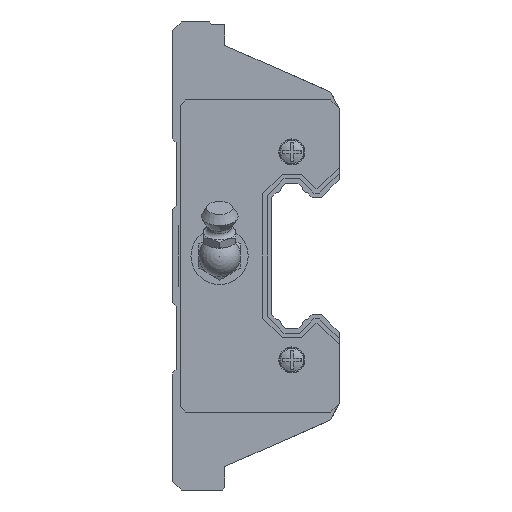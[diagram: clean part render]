
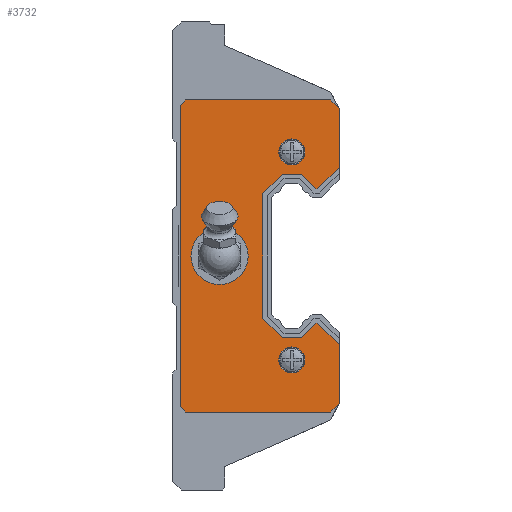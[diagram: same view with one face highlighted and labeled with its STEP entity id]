
A CAD part, left-side view. The second image highlights one B-rep face of the part: STEP entity #3732.
In plain terms, the highlighted planar face has unit normal (-1, 0, 0) as drawn and (1, 0, 0) by its records, which use the part's own axes.
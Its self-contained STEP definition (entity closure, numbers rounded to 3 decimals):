
#3714 = VERTEX_POINT('',#3715);
#3715 = CARTESIAN_POINT('',(3.,19.1,22.5));
#3720 = EDGE_CURVE('',#3714,#3714,#3721,.T.);
#3721 = CIRCLE('',#3722,2.5);
#3722 = AXIS2_PLACEMENT_3D('',#3723,#3724,#3725);
#3723 = CARTESIAN_POINT('',(3.,19.1,20.));
#3724 = DIRECTION('',(-1.,0.,0.));
#3725 = DIRECTION('',(0.,0.,1.));
#3732 = ADVANCED_FACE('',(#3733,#3895,#3898,#3909),#3920,.T.);
#3733 = FACE_BOUND('',#3734,.T.);
#3734 = EDGE_LOOP('',(#3735,#3745,#3753,#3761,#3769,#3777,#3785,#3793,
    #3801,#3809,#3817,#3825,#3833,#3841,#3849,#3857,#3865,#3873,#3881,
    #3889));
#3735 = ORIENTED_EDGE('',*,*,#3736,.F.);
#3736 = EDGE_CURVE('',#3737,#3739,#3741,.T.);
#3737 = VERTEX_POINT('',#3738);
#3738 = CARTESIAN_POINT('',(3.,14.126,12.95));
#3739 = VERTEX_POINT('',#3740);
#3740 = CARTESIAN_POINT('',(3.,10.,17.076));
#3741 = LINE('',#3742,#3743);
#3742 = CARTESIAN_POINT('',(3.,14.126,12.95));
#3743 = VECTOR('',#3744,1.);
#3744 = DIRECTION('',(0.,-0.707,0.707));
#3745 = ORIENTED_EDGE('',*,*,#3746,.F.);
#3746 = EDGE_CURVE('',#3747,#3737,#3749,.T.);
#3747 = VERTEX_POINT('',#3748);
#3748 = CARTESIAN_POINT('',(3.,14.504,12.95));
#3749 = LINE('',#3750,#3751);
#3750 = CARTESIAN_POINT('',(3.,14.504,12.95));
#3751 = VECTOR('',#3752,1.);
#3752 = DIRECTION('',(0.,-1.,0.));
#3753 = ORIENTED_EDGE('',*,*,#3754,.F.);
#3754 = EDGE_CURVE('',#3755,#3747,#3757,.T.);
#3755 = VERTEX_POINT('',#3756);
#3756 = CARTESIAN_POINT('',(3.,17.234,15.68));
#3757 = LINE('',#3758,#3759);
#3758 = CARTESIAN_POINT('',(3.,17.234,15.68));
#3759 = VECTOR('',#3760,1.);
#3760 = DIRECTION('',(0.,-0.707,-0.707));
#3761 = ORIENTED_EDGE('',*,*,#3762,.F.);
#3762 = EDGE_CURVE('',#3763,#3755,#3765,.T.);
#3763 = VERTEX_POINT('',#3764);
#3764 = CARTESIAN_POINT('',(3.,20.966,15.68));
#3765 = LINE('',#3766,#3767);
#3766 = CARTESIAN_POINT('',(3.,20.966,15.68));
#3767 = VECTOR('',#3768,1.);
#3768 = DIRECTION('',(0.,-1.,0.));
#3769 = ORIENTED_EDGE('',*,*,#3770,.F.);
#3770 = EDGE_CURVE('',#3771,#3763,#3773,.T.);
#3771 = VERTEX_POINT('',#3772);
#3772 = CARTESIAN_POINT('',(3.,24.68,11.966));
#3773 = LINE('',#3774,#3775);
#3774 = CARTESIAN_POINT('',(3.,24.68,11.966));
#3775 = VECTOR('',#3776,1.);
#3776 = DIRECTION('',(0.,-0.707,0.707));
#3777 = ORIENTED_EDGE('',*,*,#3778,.F.);
#3778 = EDGE_CURVE('',#3779,#3771,#3781,.T.);
#3779 = VERTEX_POINT('',#3780);
#3780 = CARTESIAN_POINT('',(3.,24.68,-11.966));
#3781 = LINE('',#3782,#3783);
#3782 = CARTESIAN_POINT('',(3.,24.68,-11.966));
#3783 = VECTOR('',#3784,1.);
#3784 = DIRECTION('',(0.,0.,1.));
#3785 = ORIENTED_EDGE('',*,*,#3786,.F.);
#3786 = EDGE_CURVE('',#3787,#3779,#3789,.T.);
#3787 = VERTEX_POINT('',#3788);
#3788 = CARTESIAN_POINT('',(3.,20.966,-15.68));
#3789 = LINE('',#3790,#3791);
#3790 = CARTESIAN_POINT('',(3.,20.966,-15.68));
#3791 = VECTOR('',#3792,1.);
#3792 = DIRECTION('',(0.,0.707,0.707));
#3793 = ORIENTED_EDGE('',*,*,#3794,.F.);
#3794 = EDGE_CURVE('',#3795,#3787,#3797,.T.);
#3795 = VERTEX_POINT('',#3796);
#3796 = CARTESIAN_POINT('',(3.,17.234,-15.68));
#3797 = LINE('',#3798,#3799);
#3798 = CARTESIAN_POINT('',(3.,17.234,-15.68));
#3799 = VECTOR('',#3800,1.);
#3800 = DIRECTION('',(0.,1.,0.));
#3801 = ORIENTED_EDGE('',*,*,#3802,.F.);
#3802 = EDGE_CURVE('',#3803,#3795,#3805,.T.);
#3803 = VERTEX_POINT('',#3804);
#3804 = CARTESIAN_POINT('',(3.,14.504,-12.95));
#3805 = LINE('',#3806,#3807);
#3806 = CARTESIAN_POINT('',(3.,14.504,-12.95));
#3807 = VECTOR('',#3808,1.);
#3808 = DIRECTION('',(0.,0.707,-0.707));
#3809 = ORIENTED_EDGE('',*,*,#3810,.F.);
#3810 = EDGE_CURVE('',#3811,#3803,#3813,.T.);
#3811 = VERTEX_POINT('',#3812);
#3812 = CARTESIAN_POINT('',(3.,14.126,-12.95));
#3813 = LINE('',#3814,#3815);
#3814 = CARTESIAN_POINT('',(3.,14.126,-12.95));
#3815 = VECTOR('',#3816,1.);
#3816 = DIRECTION('',(0.,1.,0.));
#3817 = ORIENTED_EDGE('',*,*,#3818,.F.);
#3818 = EDGE_CURVE('',#3819,#3811,#3821,.T.);
#3819 = VERTEX_POINT('',#3820);
#3820 = CARTESIAN_POINT('',(3.,10.,-17.076));
#3821 = LINE('',#3822,#3823);
#3822 = CARTESIAN_POINT('',(3.,10.,-17.076));
#3823 = VECTOR('',#3824,1.);
#3824 = DIRECTION('',(0.,0.707,0.707));
#3825 = ORIENTED_EDGE('',*,*,#3826,.T.);
#3826 = EDGE_CURVE('',#3819,#3827,#3829,.T.);
#3827 = VERTEX_POINT('',#3828);
#3828 = CARTESIAN_POINT('',(3.,10.,-28.4));
#3829 = LINE('',#3830,#3831);
#3830 = CARTESIAN_POINT('',(3.,10.,28.4));
#3831 = VECTOR('',#3832,1.);
#3832 = DIRECTION('',(0.,0.,-1.));
#3833 = ORIENTED_EDGE('',*,*,#3834,.T.);
#3834 = EDGE_CURVE('',#3827,#3835,#3837,.T.);
#3835 = VERTEX_POINT('',#3836);
#3836 = CARTESIAN_POINT('',(3.,11.6,-30.));
#3837 = LINE('',#3838,#3839);
#3838 = CARTESIAN_POINT('',(3.,10.,-28.4));
#3839 = VECTOR('',#3840,1.);
#3840 = DIRECTION('',(0.,0.707,-0.707));
#3841 = ORIENTED_EDGE('',*,*,#3842,.T.);
#3842 = EDGE_CURVE('',#3835,#3843,#3845,.T.);
#3843 = VERTEX_POINT('',#3844);
#3844 = CARTESIAN_POINT('',(3.,39.6,-30.));
#3845 = LINE('',#3846,#3847);
#3846 = CARTESIAN_POINT('',(3.,11.6,-30.));
#3847 = VECTOR('',#3848,1.);
#3848 = DIRECTION('',(0.,1.,0.));
#3849 = ORIENTED_EDGE('',*,*,#3850,.T.);
#3850 = EDGE_CURVE('',#3843,#3851,#3853,.T.);
#3851 = VERTEX_POINT('',#3852);
#3852 = CARTESIAN_POINT('',(3.,40.6,-29.));
#3853 = LINE('',#3854,#3855);
#3854 = CARTESIAN_POINT('',(3.,39.6,-30.));
#3855 = VECTOR('',#3856,1.);
#3856 = DIRECTION('',(0.,0.707,0.707));
#3857 = ORIENTED_EDGE('',*,*,#3858,.T.);
#3858 = EDGE_CURVE('',#3851,#3859,#3861,.T.);
#3859 = VERTEX_POINT('',#3860);
#3860 = CARTESIAN_POINT('',(3.,40.6,29.));
#3861 = LINE('',#3862,#3863);
#3862 = CARTESIAN_POINT('',(3.,40.6,-29.));
#3863 = VECTOR('',#3864,1.);
#3864 = DIRECTION('',(0.,0.,1.));
#3865 = ORIENTED_EDGE('',*,*,#3866,.T.);
#3866 = EDGE_CURVE('',#3859,#3867,#3869,.T.);
#3867 = VERTEX_POINT('',#3868);
#3868 = CARTESIAN_POINT('',(3.,39.6,30.));
#3869 = LINE('',#3870,#3871);
#3870 = CARTESIAN_POINT('',(3.,40.6,29.));
#3871 = VECTOR('',#3872,1.);
#3872 = DIRECTION('',(0.,-0.707,0.707));
#3873 = ORIENTED_EDGE('',*,*,#3874,.T.);
#3874 = EDGE_CURVE('',#3867,#3875,#3877,.T.);
#3875 = VERTEX_POINT('',#3876);
#3876 = CARTESIAN_POINT('',(3.,11.6,30.));
#3877 = LINE('',#3878,#3879);
#3878 = CARTESIAN_POINT('',(3.,39.6,30.));
#3879 = VECTOR('',#3880,1.);
#3880 = DIRECTION('',(0.,-1.,0.));
#3881 = ORIENTED_EDGE('',*,*,#3882,.T.);
#3882 = EDGE_CURVE('',#3875,#3883,#3885,.T.);
#3883 = VERTEX_POINT('',#3884);
#3884 = CARTESIAN_POINT('',(3.,10.,28.4));
#3885 = LINE('',#3886,#3887);
#3886 = CARTESIAN_POINT('',(3.,11.6,30.));
#3887 = VECTOR('',#3888,1.);
#3888 = DIRECTION('',(0.,-0.707,-0.707));
#3889 = ORIENTED_EDGE('',*,*,#3890,.T.);
#3890 = EDGE_CURVE('',#3883,#3739,#3891,.T.);
#3891 = LINE('',#3892,#3893);
#3892 = CARTESIAN_POINT('',(3.,10.,28.4));
#3893 = VECTOR('',#3894,1.);
#3894 = DIRECTION('',(0.,0.,-1.));
#3895 = FACE_BOUND('',#3896,.T.);
#3896 = EDGE_LOOP('',(#3897));
#3897 = ORIENTED_EDGE('',*,*,#3720,.T.);
#3898 = FACE_BOUND('',#3899,.T.);
#3899 = EDGE_LOOP('',(#3900));
#3900 = ORIENTED_EDGE('',*,*,#3901,.T.);
#3901 = EDGE_CURVE('',#3902,#3902,#3904,.T.);
#3902 = VERTEX_POINT('',#3903);
#3903 = CARTESIAN_POINT('',(3.,19.1,-17.5));
#3904 = CIRCLE('',#3905,2.5);
#3905 = AXIS2_PLACEMENT_3D('',#3906,#3907,#3908);
#3906 = CARTESIAN_POINT('',(3.,19.1,-20.));
#3907 = DIRECTION('',(-1.,0.,0.));
#3908 = DIRECTION('',(0.,0.,1.));
#3909 = FACE_BOUND('',#3910,.T.);
#3910 = EDGE_LOOP('',(#3911));
#3911 = ORIENTED_EDGE('',*,*,#3912,.F.);
#3912 = EDGE_CURVE('',#3913,#3913,#3915,.T.);
#3913 = VERTEX_POINT('',#3914);
#3914 = CARTESIAN_POINT('',(3.,33.,-5.5));
#3915 = CIRCLE('',#3916,5.5);
#3916 = AXIS2_PLACEMENT_3D('',#3917,#3918,#3919);
#3917 = CARTESIAN_POINT('',(3.,33.,0.));
#3918 = DIRECTION('',(1.,0.,0.));
#3919 = DIRECTION('',(0.,0.,-1.));
#3920 = PLANE('',#3921);
#3921 = AXIS2_PLACEMENT_3D('',#3922,#3923,#3924);
#3922 = CARTESIAN_POINT('',(3.,0.,0.));
#3923 = DIRECTION('',(1.,0.,0.));
#3924 = DIRECTION('',(0.,0.,1.));
